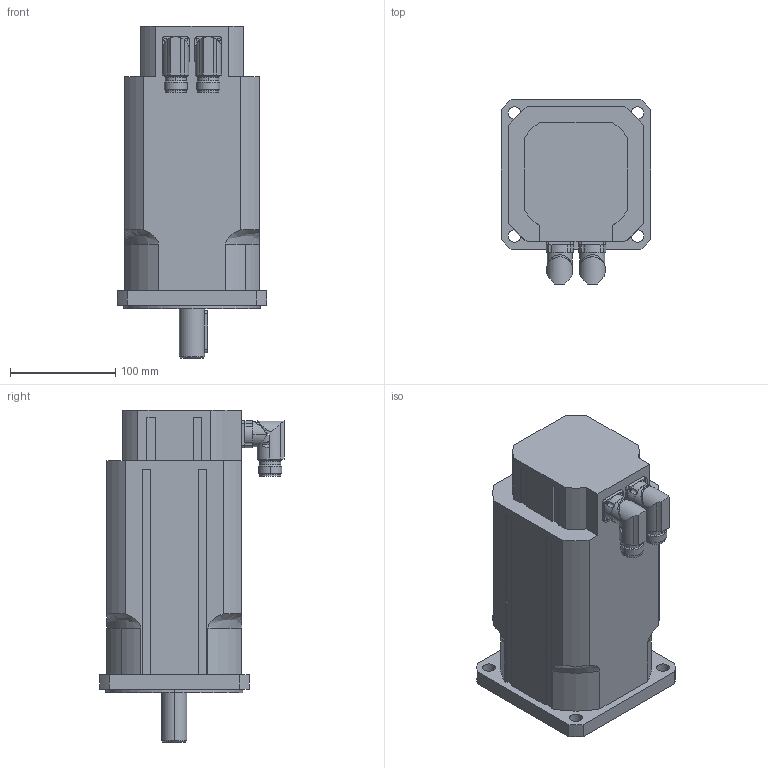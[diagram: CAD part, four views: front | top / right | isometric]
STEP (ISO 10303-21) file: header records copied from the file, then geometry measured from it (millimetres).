
FILE_DESCRIPTION(('STEP AP203'),'2;1');
FILE_NAME('MT5-1050_BX.stp','2006-08-28T20:49:47',(''),(''),'2005.2.102','THINKDESIGN','');
FILE_SCHEMA(('CONFIG_CONTROL_DESIGN'));
Length unit declared in the file: millimetre
Bounding box: 142 x 175.5 x 315 mm (x, y, z)
Volume: 3993560.6 mm3; surface area: 192820.2 mm2
Topology: 3 solids, 3 shells, 255 faces, 679 edges, 439 vertices
Faces by surface type: cylinder 110, plane 107, bspline 38
Full cylindrical faces by diameter (mm): 20 x2
Entity records: 9316 total; most frequent: CARTESIAN_POINT 2863, ORIENTED_EDGE 1354, DIRECTION 1327, EDGE_CURVE 677, AXIS2_PLACEMENT_3D 493, VERTEX_POINT 439, VECTOR 341, LINE 341
